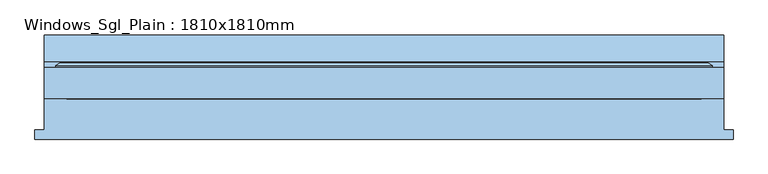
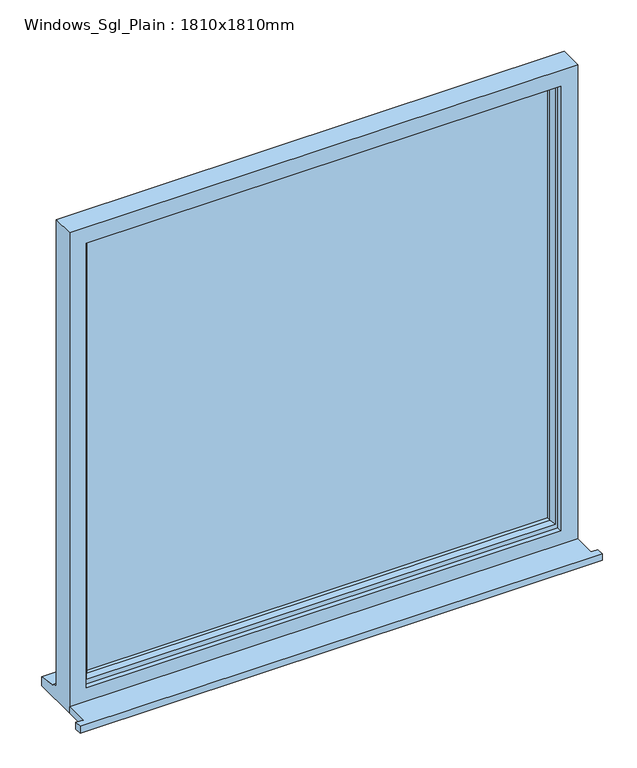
"""IFC4 building model written with IfcOpenShell, lengths in millimetres: window geometry, Windows_Sgl_Plain : 1810x1810mm."""

from ifc_helpers import new_model, si_unit, frame, origin, place, context, project, spatial, polyline, outline, extrude, faceted_brep, source, transform, mapped, element, save


def windows_sgl_plain_1810x1810mm_5434ce38(model_context):
    return source(origin(), model_context, "Body", "SolidModel", [
        extrude(outline(polyline([(-930.0, -124.5434322), (-930.0, -99.5434322), (-905.0, -99.5434322), (-905.0, -16.5434322), (905.0, -16.5434322), (905.0, -99.5434322), (930.0, -99.5434322), (930.0, -124.5434322), (-930.0, -124.5434322)])), frame((0.0, 0.0, 300.0), z_axis=(0.0, 0.0, 1.0), x_axis=(1.0, 0.0, 0.0)), (0.0, 0.0, 1.0), 25.0),
        faceted_brep([(-905.0, -16.5434322, 300.0), (905.0, -16.5434322, 300.0), (905.0, -16.5434322, 2110.0), (-905.0, -16.5434322, 2110.0), (-845.0, -16.5434322, 2050.0), (845.0, -16.5434322, 2050.0), (845.0, -16.5434322, 375.0), (-845.0, -16.5434322, 375.0), (-905.0, 66.4565678, 2110.0), (-905.0, 66.4565678, 351.0), (-905.0, 81.4565678, 349.68767), (-905.0, 81.4565678, 344.7449676), (-905.0, 153.9565678, 333.8088847), (-905.0, 153.9565678, 300.0), (905.0, 66.4565678, 2110.0), (905.0, 66.4565678, 351.0), (-865.0, 66.4565678, 2070.0), (-865.0, 66.4565678, 363.0), (865.0, 66.4565678, 363.0), (865.0, 66.4565678, 2070.0), (-865.0, 1.4565678, 2070.0), (-865.0, 1.4565678, 363.0), (865.0, 1.4565678, 2070.0), (865.0, 1.4565678, 363.0), (-845.0, 1.4565678, 2050.0), (-845.0, 1.4565678, 375.0), (845.0, 1.4565678, 375.0), (845.0, 1.4565678, 2050.0), (905.0, 153.9565678, 300.0), (905.0, 153.9565678, 333.8088847), (905.0, 81.4565678, 344.7449676), (905.0, 81.4565678, 349.68767)], [[[0, 1, 2, 3], [4, 5, 6, 7]], [[0, 3, 8, 9, 10, 11, 12, 13]], [[9, 8, 14, 15], [16, 17, 18, 19]], [[17, 16, 20, 21]], [[20, 22, 23, 21], [24, 25, 26, 27]], [[24, 4, 7, 25]], [[3, 2, 14, 8]], [[16, 19, 22, 20]], [[5, 4, 24, 27]], [[15, 14, 2, 1, 28, 29, 30, 31]], [[19, 18, 23, 22]], [[5, 27, 26, 6]], [[28, 1, 0, 13]], [[29, 28, 13, 12]], [[30, 29, 12, 11]], [[31, 30, 11, 10]], [[15, 31, 10, 9]], [[21, 23, 18, 17]], [[7, 6, 26, 25]]]),
        extrude(outline(polyline([(835.0, 30.4565678), (-835.0, 30.4565678), (-835.0, 54.4565678), (835.0, 54.4565678), (835.0, 30.4565678)])), frame((0.0, 0.0, 393.0), z_axis=(0.0, 0.0, 1.0), x_axis=(1.0, 0.0, 0.0)), (0.0, 0.0, 1.0), 1647.0),
        faceted_brep([(-875.0, 66.4565678, 2080.0), (-875.0, 72.2300705, 2080.0), (-875.0, 72.2300705, 353.0), (-875.0, 66.4565678, 353.0), (-865.0, 1.4565678, 2070.0), (-865.0, 66.4565678, 2070.0), (-865.0, 66.4565678, 363.0), (-865.0, 1.4565678, 363.0), (-825.0, 15.9494677, 2030.0), (-835.1480377, 1.4565678, 2040.1480377), (-835.1480377, 1.4565678, 392.8519623), (-825.0, 15.9494677, 403.0), (-825.0, 30.4565678, 2030.0), (-825.0, 30.4565678, 403.0), (-835.0, 54.4565678, 2040.0), (-835.0, 30.4565678, 2040.0), (-835.0, 30.4565678, 393.0), (-835.0, 54.4565678, 393.0), (-825.0, 72.2300705, 2030.0), (-825.0, 54.4565678, 2030.0), (-825.0, 54.4565678, 403.0), (-825.0, 72.2300705, 403.0), (-842.4457548, 78.0035732, 2047.4457548), (-842.4457548, 78.0035732, 385.5542452), (-864.2153903, 78.0035732, 2069.2153903), (-864.2153903, 78.0035732, 363.7846097), (875.0, 72.2300705, 353.0), (875.0, 66.4565678, 353.0), (865.0, 66.4565678, 363.0), (865.0, 1.4565678, 363.0), (835.1480377, 1.4565678, 392.8519623), (825.0, 15.9494677, 403.0), (825.0, 30.4565678, 403.0), (835.0, 30.4565678, 393.0), (835.0, 54.4565678, 393.0), (825.0, 54.4565678, 403.0), (825.0, 72.2300705, 403.0), (842.4457548, 78.0035732, 385.5542452), (864.2153903, 78.0035732, 363.7846097), (875.0, 72.2300705, 2080.0), (875.0, 66.4565678, 2080.0), (865.0, 66.4565678, 2070.0), (865.0, 1.4565678, 2070.0), (835.1480377, 1.4565678, 2040.1480377), (825.0, 15.9494677, 2030.0), (825.0, 30.4565678, 2030.0), (835.0, 30.4565678, 2040.0), (835.0, 54.4565678, 2040.0), (825.0, 54.4565678, 2030.0), (825.0, 72.2300705, 2030.0), (842.4457548, 78.0035732, 2047.4457548), (864.2153903, 78.0035732, 2069.2153903)], [[[0, 1, 2, 3]], [[4, 5, 6, 7]], [[8, 9, 10, 11]], [[12, 8, 11, 13]], [[14, 15, 16, 17]], [[18, 19, 20, 21]], [[22, 18, 21, 23]], [[1, 24, 25, 2]], [[3, 2, 26, 27]], [[7, 6, 28, 29]], [[11, 10, 30, 31]], [[13, 11, 31, 32]], [[17, 16, 33, 34]], [[21, 20, 35, 36]], [[23, 21, 36, 37]], [[2, 25, 38, 26]], [[27, 26, 39, 40]], [[29, 28, 41, 42]], [[31, 30, 43, 44]], [[32, 31, 44, 45]], [[34, 33, 46, 47]], [[36, 35, 48, 49]], [[37, 36, 49, 50]], [[26, 38, 51, 39]], [[40, 39, 1, 0]], [[3, 27, 40, 0], [5, 41, 28, 6]], [[42, 41, 5, 4]], [[7, 29, 42, 4], [9, 43, 30, 10]], [[44, 43, 9, 8]], [[45, 44, 8, 12]], [[15, 46, 33, 16], [13, 32, 45, 12]], [[47, 46, 15, 14]], [[17, 34, 47, 14], [19, 48, 35, 20]], [[49, 48, 19, 18]], [[50, 49, 18, 22]], [[24, 51, 38, 25], [23, 37, 50, 22]], [[39, 51, 24, 1]]]),
    ])


if __name__ == "__main__":
    model = new_model("IFC4")
    model_context = context("Model", 3, world=origin())
    ifc_project = project(units=[si_unit("LENGTHUNIT", "METRE", prefix="MILLI")], contexts=[model_context])
    site = spatial("IfcSite", under=ifc_project)
    building = spatial("IfcBuilding", under=site)
    placement = place(None, origin())
    windows_sgl_plain_1810x1810mm_shape = windows_sgl_plain_1810x1810mm_5434ce38(model_context)
    element("IfcWindow", 1, ObjectType="Windows_Sgl_Plain : 1810x1810mm", at=placement, inside=building, context=model_context, shape_type="MappedRepresentation", body=[
        mapped(windows_sgl_plain_1810x1810mm_shape, transform((0.0, 0.0, 0.0), x_axis=(1.0, 0.0, 0.0), y_axis=(0.0, 1.0, 0.0), z_axis=(0.0, 0.0, 1.0))),
    ])
    save(model, "model.ifc")
